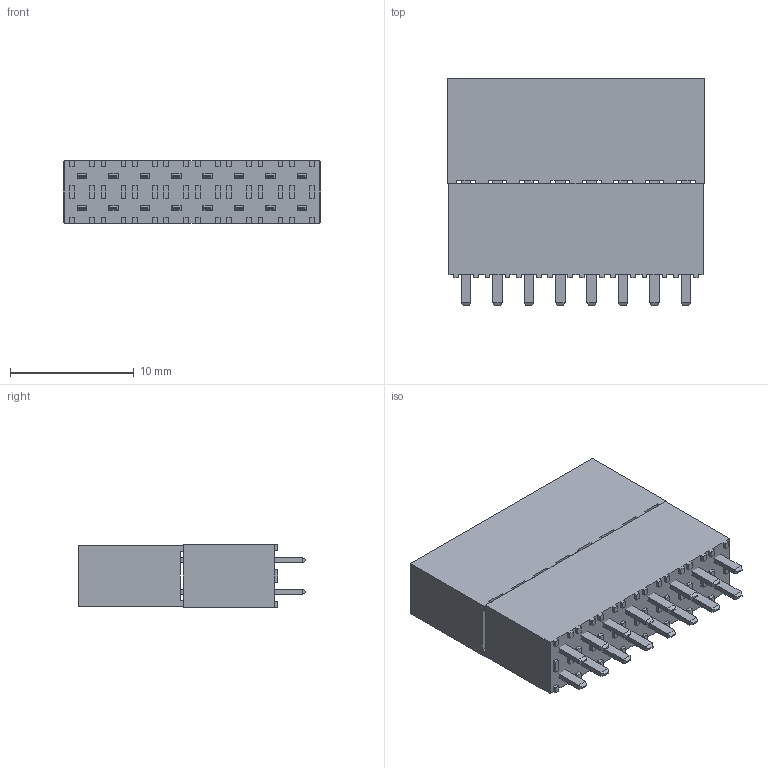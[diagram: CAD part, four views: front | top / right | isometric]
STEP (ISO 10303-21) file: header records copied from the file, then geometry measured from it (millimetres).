
FILE_DESCRIPTION(/* description */ ('STEP AP203'),/* implementation_level */ '2;1');
FILE_NAME(/* name */ 'ESW-108-58-G-D',/* time_stamp */ '2026-01-09T16:34:36+01:00',/* author */ ('License CC BY-ND 4.0'),/* organization */ ('CADENAS'),/* preprocessor_version */ 'ST-DEVELOPER v20',/* originating_system */ 'PARTsolutions',/* authorisation */ ' ');
FILE_SCHEMA (('CONFIG_CONTROL_DESIGN'));
Length unit declared in the file: inch
Products named in the file (5): ESW-108-58-G-D; ESW-108-58-G-D_socket; ESW-108-58-G-D_pins; ESW-108-58-G-D2_PINS; ESW-108-58-G-D_bsocket
Assembly tree (4 placements, depth 2):
  ESW-108-58-G-D
    ESW-108-58-G-D_socket
    ESW-108-58-G-D_pins
    ESW-108-58-G-D2_PINS
    ESW-108-58-G-D_bsocket
Bounding box: 20.83 x 18.41 x 5.08 mm (x, y, z)
Volume: 1631.9 mm3; surface area: 2530.8 mm2
Topology: 4 solids, 4 shells, 700 faces, 1820 edges, 1192 vertices
Faces by surface type: plane 684, cylinder 16
Entity records: 21003 total; most frequent: CARTESIAN_POINT 3717, ORIENTED_EDGE 3640, DIRECTION 3262, EDGE_CURVE 1820, LINE 1788, VECTOR 1788, VERTEX_POINT 1192, EDGE_LOOP 764
